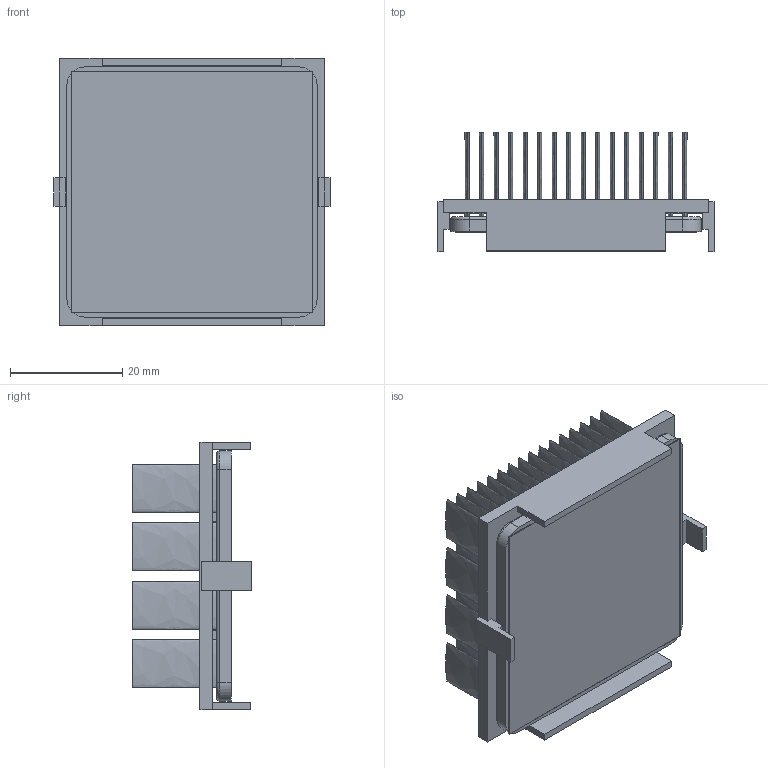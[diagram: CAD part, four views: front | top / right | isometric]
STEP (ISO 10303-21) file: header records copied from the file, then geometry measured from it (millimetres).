
FILE_DESCRIPTION (( 'STEP AP214' ), '1' );
FILE_NAME ('INM45001-18W-2.6Y.STEP', '2023-02-28T00:40:25', ( '' ), ( '' ), 'SwSTEP 2.0', 'SolidWorks 2020', '' );
FILE_SCHEMA (( 'AUTOMOTIVE_DESIGN' ));
Length unit declared in the file: inch
Products named in the file (1): INM45001-18W-2.6Y
Bounding box: 49.2 x 21.2 x 47.7 mm (x, y, z)
Volume: 12714.6 mm3; surface area: 27954.9 mm2
Topology: 3 solids, 3 shells, 274 faces, 604 edges, 400 vertices
Faces by surface type: plane 134, bspline 128, cylinder 8, torus 4
Entity records: 11396 total; most frequent: CARTESIAN_POINT 2943, ORIENTED_EDGE 1208, DIRECTION 662, EDGE_CURVE 604, VERTEX_POINT 400, EDGE_LOOP 340, VECTOR 328, LINE 328
